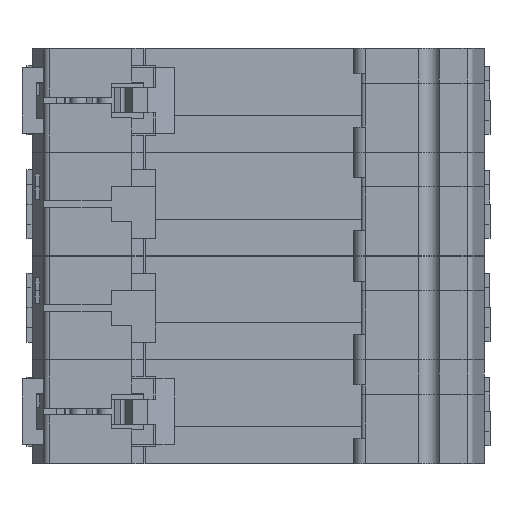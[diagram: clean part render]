
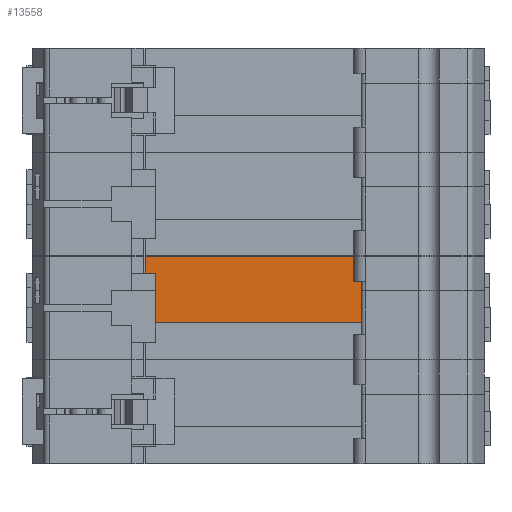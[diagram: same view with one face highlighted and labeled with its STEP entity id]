
A CAD part, front view. The second image highlights one B-rep face of the part: STEP entity #13558.
In plain terms, the highlighted planar face has unit normal (0, -1, 0).
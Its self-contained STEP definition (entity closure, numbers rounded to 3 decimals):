
#932 = DIRECTION ( 'NONE',  ( 1., 0., 0. ) ) ;
#1093 = CARTESIAN_POINT ( 'NONE',  ( -8.9, -55.95, -11.3 ) ) ;
#1466 = EDGE_CURVE ( 'NONE', #12569, #2211, #4388, .T. ) ;
#2070 = DIRECTION ( 'NONE',  ( -1., 0., 0. ) ) ;
#2211 = VERTEX_POINT ( 'NONE', #3733 ) ;
#2549 = VECTOR ( 'NONE', #2070, 1000. ) ;
#2643 = CARTESIAN_POINT ( 'NONE',  ( 29.2, -55.95, -11.3 ) ) ;
#2998 = CARTESIAN_POINT ( 'NONE',  ( 29.2, -55.95, -5.8 ) ) ;
#3642 = ORIENTED_EDGE ( 'NONE', *, *, #14335, .F. ) ;
#3733 = CARTESIAN_POINT ( 'NONE',  ( -8.9, -55.95, -2.8 ) ) ;
#3768 = LINE ( 'NONE', #12008, #20511 ) ;
#3879 = VERTEX_POINT ( 'NONE', #5843 ) ;
#3928 = CARTESIAN_POINT ( 'NONE',  ( 26.2, -55.95, -8.75 ) ) ;
#4164 = DIRECTION ( 'NONE',  ( 0., -1., 0. ) ) ;
#4381 = DIRECTION ( 'NONE',  ( 0., 0., -1. ) ) ;
#4388 = LINE ( 'NONE', #14194, #6377 ) ;
#4908 = CARTESIAN_POINT ( 'NONE',  ( 26.2, -55.95, 0.1 ) ) ;
#4943 = VERTEX_POINT ( 'NONE', #11363 ) ;
#5108 = VERTEX_POINT ( 'NONE', #2998 ) ;
#5212 = VECTOR ( 'NONE', #22017, 1000. ) ;
#5387 = LINE ( 'NONE', #11644, #7677 ) ;
#5767 = EDGE_CURVE ( 'NONE', #23210, #12569, #17000, .T. ) ;
#5843 = CARTESIAN_POINT ( 'NONE',  ( 26.2, -55.95, -5.8 ) ) ;
#6076 = ORIENTED_EDGE ( 'NONE', *, *, #15785, .T. ) ;
#6377 = VECTOR ( 'NONE', #15881, 1000. ) ;
#6679 = FACE_OUTER_BOUND ( 'NONE', #21162, .T. ) ;
#7266 = DIRECTION ( 'NONE',  ( 0., 0., 1. ) ) ;
#7553 = CARTESIAN_POINT ( 'NONE',  ( -10.7, -55.95, 0.1 ) ) ;
#7677 = VECTOR ( 'NONE', #4381, 1000. ) ;
#7786 = VECTOR ( 'NONE', #7266, 1000. ) ;
#8913 = CARTESIAN_POINT ( 'NONE',  ( -10.7, -55.95, -2.8 ) ) ;
#9138 = AXIS2_PLACEMENT_3D ( 'NONE', #18594, #4164, #22517 ) ;
#11098 = CARTESIAN_POINT ( 'NONE',  ( -10.7, -55.95, -2.8 ) ) ;
#11363 = CARTESIAN_POINT ( 'NONE',  ( -10.7, -55.95, 0.1 ) ) ;
#11644 = CARTESIAN_POINT ( 'NONE',  ( 29.2, -55.95, 81.465 ) ) ;
#12008 = CARTESIAN_POINT ( 'NONE',  ( 29.2, -55.95, -5.8 ) ) ;
#12517 = VECTOR ( 'NONE', #14830, 1000. ) ;
#12569 = VERTEX_POINT ( 'NONE', #1093 ) ;
#12647 = ORIENTED_EDGE ( 'NONE', *, *, #19936, .F. ) ;
#12669 = CARTESIAN_POINT ( 'NONE',  ( 29.2, -55.95, -11.3 ) ) ;
#13063 = ORIENTED_EDGE ( 'NONE', *, *, #15581, .F. ) ;
#13095 = ORIENTED_EDGE ( 'NONE', *, *, #14069, .F. ) ;
#13558 = ADVANCED_FACE ( 'NONE', ( #6679 ), #18750, .T. ) ;
#13814 = LINE ( 'NONE', #17752, #16630 ) ;
#13823 = ORIENTED_EDGE ( 'NONE', *, *, #1466, .F. ) ;
#13955 = DIRECTION ( 'NONE',  ( -1., 0., 0. ) ) ;
#14021 = ORIENTED_EDGE ( 'NONE', *, *, #18546, .F. ) ;
#14069 = EDGE_CURVE ( 'NONE', #4943, #21056, #21998, .T. ) ;
#14194 = CARTESIAN_POINT ( 'NONE',  ( -8.9, -55.95, -8.75 ) ) ;
#14335 = EDGE_CURVE ( 'NONE', #14480, #4943, #22023, .T. ) ;
#14480 = VERTEX_POINT ( 'NONE', #11098 ) ;
#14830 = DIRECTION ( 'NONE',  ( 0., 0., 1. ) ) ;
#15581 = EDGE_CURVE ( 'NONE', #3879, #5108, #3768, .T. ) ;
#15785 = EDGE_CURVE ( 'NONE', #3879, #21056, #22238, .T. ) ;
#15881 = DIRECTION ( 'NONE',  ( 0., 0., 1. ) ) ;
#16630 = VECTOR ( 'NONE', #13955, 1000. ) ;
#17000 = LINE ( 'NONE', #12669, #2549 ) ;
#17752 = CARTESIAN_POINT ( 'NONE',  ( -11., -55.95, -2.8 ) ) ;
#18546 = EDGE_CURVE ( 'NONE', #5108, #23210, #5387, .T. ) ;
#18594 = CARTESIAN_POINT ( 'NONE',  ( -11., -55.95, -8.75 ) ) ;
#18750 = PLANE ( 'NONE',  #9138 ) ;
#19936 = EDGE_CURVE ( 'NONE', #2211, #14480, #13814, .T. ) ;
#20511 = VECTOR ( 'NONE', #932, 1000. ) ;
#21056 = VERTEX_POINT ( 'NONE', #4908 ) ;
#21162 = EDGE_LOOP ( 'NONE', ( #6076, #13095, #3642, #12647, #13823, #23242, #14021, #13063 ) ) ;
#21998 = LINE ( 'NONE', #7553, #5212 ) ;
#22017 = DIRECTION ( 'NONE',  ( 1., 0., 0. ) ) ;
#22023 = LINE ( 'NONE', #8913, #7786 ) ;
#22238 = LINE ( 'NONE', #3928, #12517 ) ;
#22517 = DIRECTION ( 'NONE',  ( 0., 0., -1. ) ) ;
#23210 = VERTEX_POINT ( 'NONE', #2643 ) ;
#23242 = ORIENTED_EDGE ( 'NONE', *, *, #5767, .F. ) ;
